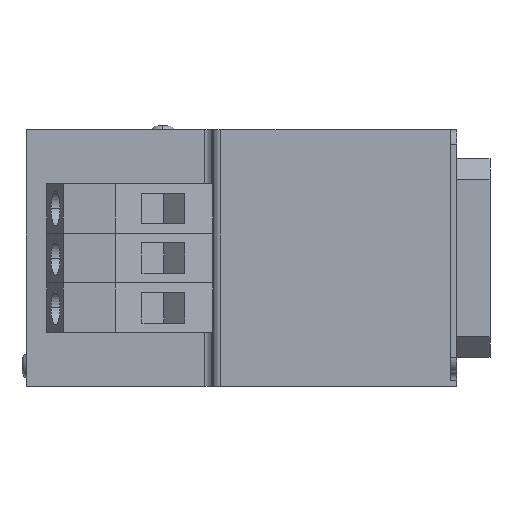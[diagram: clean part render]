
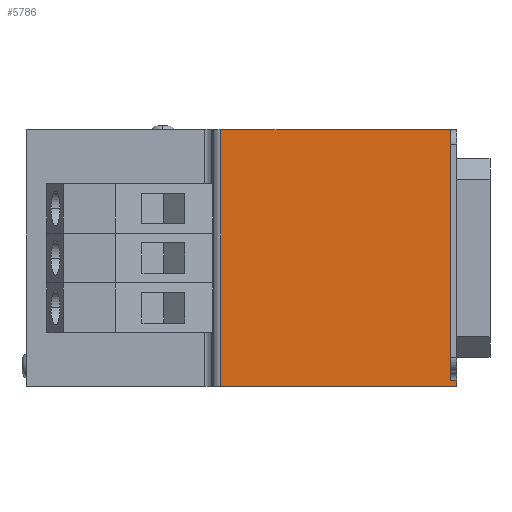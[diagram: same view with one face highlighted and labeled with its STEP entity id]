
A CAD part, left-side view. The second image highlights one B-rep face of the part: STEP entity #5786.
In plain terms, the highlighted planar face has unit normal (-1, 0, 0).
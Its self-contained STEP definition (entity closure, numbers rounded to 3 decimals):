
#154 = DIRECTION ( 'NONE',  ( 0., 1., 0. ) ) ;
#419 = CARTESIAN_POINT ( 'NONE',  ( -75.5, 1.5, 31. ) ) ;
#499 = CARTESIAN_POINT ( 'NONE',  ( -75.5, 0., -31. ) ) ;
#565 = VERTEX_POINT ( 'NONE', #419 ) ;
#674 = LINE ( 'NONE', #499, #6026 ) ;
#848 = CARTESIAN_POINT ( 'NONE',  ( -75.5, 1.5, -29.5 ) ) ;
#868 = CARTESIAN_POINT ( 'NONE',  ( -75.5, 0., -31. ) ) ;
#939 = DIRECTION ( 'NONE',  ( 1., 0., 0. ) ) ;
#1124 = DIRECTION ( 'NONE',  ( 0., 1., 0. ) ) ;
#1382 = EDGE_CURVE ( 'NONE', #4034, #565, #4436, .T. ) ;
#1445 = CARTESIAN_POINT ( 'NONE',  ( -75.5, 1.5, -31. ) ) ;
#1546 = CARTESIAN_POINT ( 'NONE',  ( -75.5, 57., -31. ) ) ;
#1575 = DIRECTION ( 'NONE',  ( 0., 0., -1. ) ) ;
#1655 = VERTEX_POINT ( 'NONE', #7072 ) ;
#1682 = LINE ( 'NONE', #7708, #7446 ) ;
#1710 = VECTOR ( 'NONE', #8973, 1000. ) ;
#1791 = ORIENTED_EDGE ( 'NONE', *, *, #6349, .T. ) ;
#2041 = ORIENTED_EDGE ( 'NONE', *, *, #7155, .F. ) ;
#2118 = ORIENTED_EDGE ( 'NONE', *, *, #4299, .T. ) ;
#2219 = VECTOR ( 'NONE', #4537, 1000. ) ;
#2378 = PLANE ( 'NONE',  #4798 ) ;
#2514 = CARTESIAN_POINT ( 'NONE',  ( -75.5, 1.5, 31. ) ) ;
#2841 = CARTESIAN_POINT ( 'NONE',  ( -75.5, 0., -29.5 ) ) ;
#2998 = CARTESIAN_POINT ( 'NONE',  ( -75.5, 1.5, -31. ) ) ;
#3170 = EDGE_CURVE ( 'NONE', #1655, #8497, #8299, .T. ) ;
#4034 = VERTEX_POINT ( 'NONE', #848 ) ;
#4299 = EDGE_CURVE ( 'NONE', #565, #1655, #5413, .T. ) ;
#4436 = LINE ( 'NONE', #1445, #2219 ) ;
#4537 = DIRECTION ( 'NONE',  ( 0., 0., 1. ) ) ;
#4798 = AXIS2_PLACEMENT_3D ( 'NONE', #2998, #939, #7719 ) ;
#4913 = CARTESIAN_POINT ( 'NONE',  ( -75.5, 1.5, -29.5 ) ) ;
#4974 = VERTEX_POINT ( 'NONE', #2841 ) ;
#5312 = VECTOR ( 'NONE', #6137, 1000. ) ;
#5413 = LINE ( 'NONE', #2514, #5312 ) ;
#5778 = LINE ( 'NONE', #4913, #7756 ) ;
#5786 = ADVANCED_FACE ( 'NONE', ( #6876 ), #2378, .F. ) ;
#6026 = VECTOR ( 'NONE', #1575, 1000. ) ;
#6033 = ORIENTED_EDGE ( 'NONE', *, *, #1382, .T. ) ;
#6037 = EDGE_CURVE ( 'NONE', #4974, #6252, #674, .T. ) ;
#6137 = DIRECTION ( 'NONE',  ( 0., 1., 0. ) ) ;
#6252 = VERTEX_POINT ( 'NONE', #868 ) ;
#6349 = EDGE_CURVE ( 'NONE', #4974, #4034, #5778, .T. ) ;
#6876 = FACE_OUTER_BOUND ( 'NONE', #9530, .T. ) ;
#7072 = CARTESIAN_POINT ( 'NONE',  ( -75.5, 57., 31. ) ) ;
#7155 = EDGE_CURVE ( 'NONE', #6252, #8497, #1682, .T. ) ;
#7446 = VECTOR ( 'NONE', #154, 1000. ) ;
#7475 = ORIENTED_EDGE ( 'NONE', *, *, #6037, .F. ) ;
#7708 = CARTESIAN_POINT ( 'NONE',  ( -75.5, 1.5, -31. ) ) ;
#7719 = DIRECTION ( 'NONE',  ( 0., 0., -1. ) ) ;
#7756 = VECTOR ( 'NONE', #1124, 1000. ) ;
#8299 = LINE ( 'NONE', #1546, #1710 ) ;
#8497 = VERTEX_POINT ( 'NONE', #9395 ) ;
#8543 = ORIENTED_EDGE ( 'NONE', *, *, #3170, .T. ) ;
#8973 = DIRECTION ( 'NONE',  ( 0., 0., -1. ) ) ;
#9395 = CARTESIAN_POINT ( 'NONE',  ( -75.5, 57., -31. ) ) ;
#9530 = EDGE_LOOP ( 'NONE', ( #2118, #8543, #2041, #7475, #1791, #6033 ) ) ;
